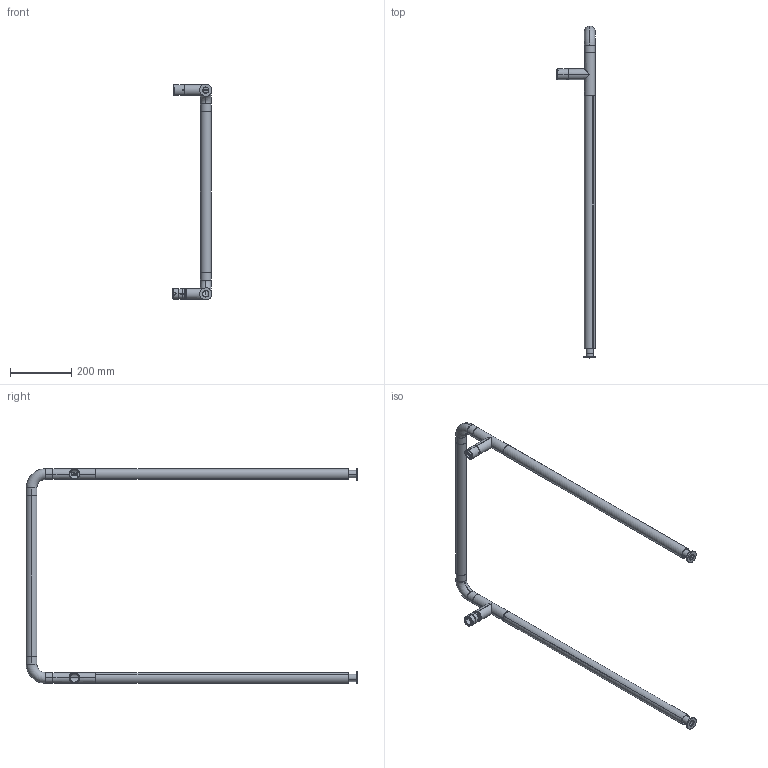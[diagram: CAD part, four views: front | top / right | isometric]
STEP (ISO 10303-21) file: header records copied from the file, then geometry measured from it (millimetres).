
FILE_DESCRIPTION (( 'STEP AP203' ), '1' );
FILE_NAME ('INFFL1070700.STEP', '2026-03-03T07:59:51', ( '' ), ( '' ), 'SwSTEP 2.0', 'SolidWorks 2025', '' );
FILE_SCHEMA (( 'CONFIG_CONTROL_DESIGN' ));
Length unit declared in the file: millimetre
Products named in the file (10): INFFIX; BICCHIERE FISSAGGIO; INFTU_825; INFFL1070700; INFAPP_20; INFFIX_Passante; INFTU_525; NOTTOLINO ANTISGAMBAMENTO; INFRAC; INFRAT
Assembly tree (13 placements, depth 2):
  INFFL1070700
    INFAPP_20  x2
    INFRAT  x2
    INFFIX
    INFTU_525
    INFFIX_Passante
    INFRAC  x2
    INFTU_825  x2
    BICCHIERE FISSAGGIO
    NOTTOLINO ANTISGAMBAMENTO
Bounding box: 129.98 x 1082.5 x 704.95 mm (x, y, z)
Volume: 493861.1 mm3; surface area: 638641 mm2
Topology: 14 solids, 14 shells, 187 faces, 474 edges, 308 vertices
Faces by surface type: cylinder 109, plane 43, cone 16, torus 12, bspline 7
Entity records: 9373 total; most frequent: CARTESIAN_POINT 4609, DIRECTION 767, ORIENTED_EDGE 756, EDGE_CURVE 378, AXIS2_PLACEMENT_3D 315, VERTEX_POINT 244, EDGE_LOOP 178, CIRCLE 159
